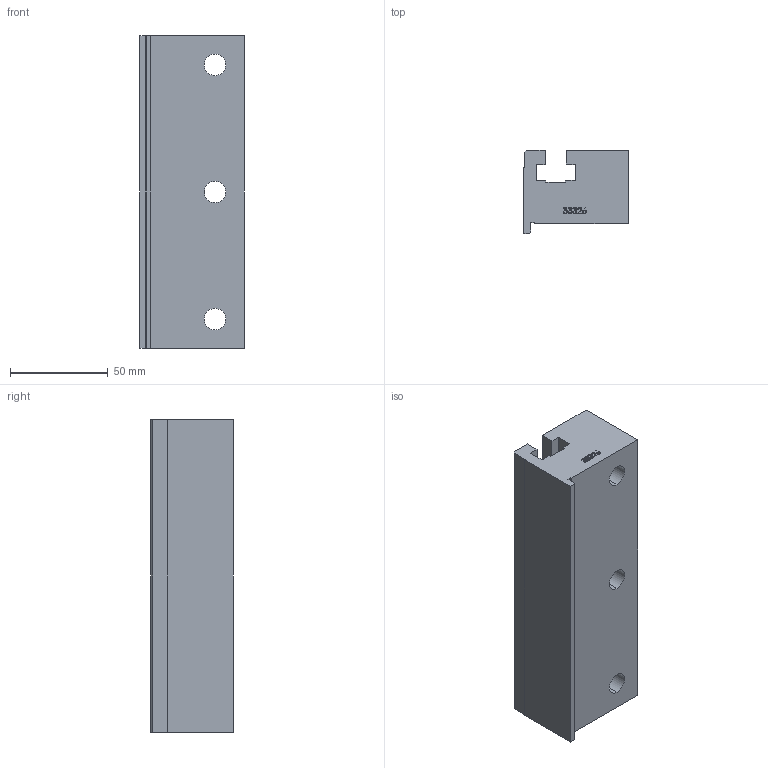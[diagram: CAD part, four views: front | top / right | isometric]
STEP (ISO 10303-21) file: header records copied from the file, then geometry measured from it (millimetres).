
FILE_DESCRIPTION (( 'STEP AP214' ), '1' );
FILE_NAME ('D33326A .5 GANG RISER.STEP', '2014-07-21T16:36:35', ( '' ), ( '' ), 'SwSTEP 2.0', 'SolidWorks 2012', '' );
FILE_SCHEMA (( 'AUTOMOTIVE_DESIGN' ));
Length unit declared in the file: millimetre
Products named in the file (1): D33326A .5 GANG RISER
Bounding box: 53.5 x 42.3 x 160 mm (x, y, z)
Volume: 265610.7 mm3; surface area: 46288.9 mm2
Topology: 1 solids, 1 shells, 122 faces, 333 edges, 222 vertices
Faces by surface type: bspline 57, plane 53, cylinder 12
Entity records: 7688 total; most frequent: CARTESIAN_POINT 3983, ORIENTED_EDGE 666, DIRECTION 375, EDGE_CURVE 333, VERTEX_POINT 222, LINE 195, VECTOR 195, EDGE_LOOP 137
